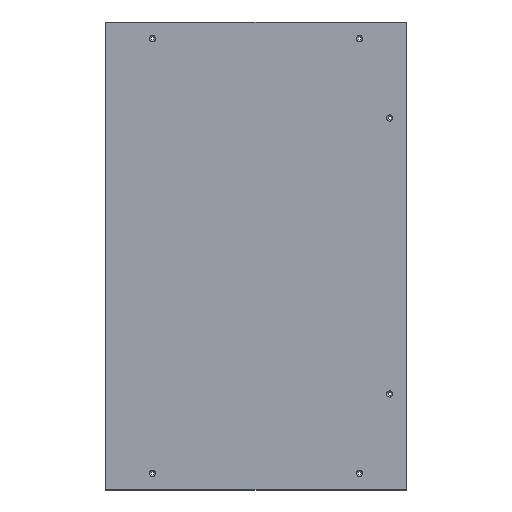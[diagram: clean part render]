
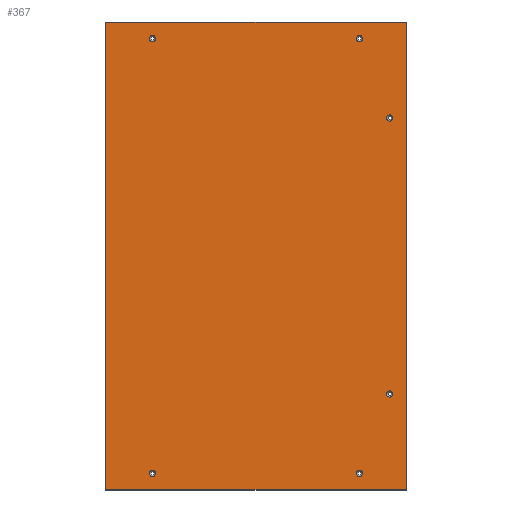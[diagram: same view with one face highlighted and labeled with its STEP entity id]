
A CAD part, top view. The second image highlights one B-rep face of the part: STEP entity #367.
In plain terms, the highlighted planar face has unit normal (0, 0, 1).
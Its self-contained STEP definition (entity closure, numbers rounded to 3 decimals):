
#5 = EDGE_LOOP ( 'NONE', ( #140 ) ) ;
#14 = EDGE_LOOP ( 'NONE', ( #322 ) ) ;
#16 = DIRECTION ( 'NONE',  ( -1., 0., 0. ) ) ;
#20 = DIRECTION ( 'NONE',  ( 0., 0., -1. ) ) ;
#21 = EDGE_LOOP ( 'NONE', ( #415 ) ) ;
#25 = DIRECTION ( 'NONE',  ( 0., -1., 0. ) ) ;
#30 = ORIENTED_EDGE ( 'NONE', *, *, #73, .T. ) ;
#32 = DIRECTION ( 'NONE',  ( -1., 0., 0. ) ) ;
#34 = VERTEX_POINT ( 'NONE', #467 ) ;
#46 = VERTEX_POINT ( 'NONE', #204 ) ;
#47 = AXIS2_PLACEMENT_3D ( 'NONE', #100, #139, #16 ) ;
#59 = ORIENTED_EDGE ( 'NONE', *, *, #96, .T. ) ;
#66 = CARTESIAN_POINT ( 'NONE',  ( 0., 0., 2. ) ) ;
#70 = ORIENTED_EDGE ( 'NONE', *, *, #463, .T. ) ;
#72 = EDGE_LOOP ( 'NONE', ( #537 ) ) ;
#73 = EDGE_CURVE ( 'NONE', #340, #327, #302, .T. ) ;
#74 = CARTESIAN_POINT ( 'NONE',  ( -150., 315., 2. ) ) ;
#79 = VERTEX_POINT ( 'NONE', #550 ) ;
#82 = VERTEX_POINT ( 'NONE', #425 ) ;
#91 = AXIS2_PLACEMENT_3D ( 'NONE', #515, #296, #212 ) ;
#96 = EDGE_CURVE ( 'NONE', #34, #34, #458, .T. ) ;
#100 = CARTESIAN_POINT ( 'NONE',  ( 193.5, -200., 2. ) ) ;
#109 = CIRCLE ( 'NONE', #47, 4.5 ) ;
#114 = DIRECTION ( 'NONE',  ( 0., 0., -1. ) ) ;
#127 = VECTOR ( 'NONE', #25, 1000. ) ;
#129 = CARTESIAN_POINT ( 'NONE',  ( -150., -315., 2. ) ) ;
#139 = DIRECTION ( 'NONE',  ( 0., 0., -1. ) ) ;
#140 = ORIENTED_EDGE ( 'NONE', *, *, #162, .T. ) ;
#152 = EDGE_CURVE ( 'NONE', #46, #418, #443, .T. ) ;
#157 = CARTESIAN_POINT ( 'NONE',  ( -217.5, -339., 2. ) ) ;
#158 = EDGE_LOOP ( 'NONE', ( #403, #381, #545, #30 ) ) ;
#162 = EDGE_CURVE ( 'NONE', #546, #546, #109, .T. ) ;
#163 = CARTESIAN_POINT ( 'NONE',  ( 145.5, -315., 2. ) ) ;
#166 = DIRECTION ( 'NONE',  ( 1., 0., 0. ) ) ;
#188 = DIRECTION ( 'NONE',  ( 0., 0., -1. ) ) ;
#190 = AXIS2_PLACEMENT_3D ( 'NONE', #66, #114, #505 ) ;
#204 = CARTESIAN_POINT ( 'NONE',  ( 217.5, 339., 2. ) ) ;
#210 = EDGE_CURVE ( 'NONE', #422, #422, #291, .T. ) ;
#212 = DIRECTION ( 'NONE',  ( -1., 0., 0. ) ) ;
#213 = VECTOR ( 'NONE', #488, 1000. ) ;
#214 = CARTESIAN_POINT ( 'NONE',  ( 217.5, -339., 2. ) ) ;
#220 = AXIS2_PLACEMENT_3D ( 'NONE', #530, #188, #405 ) ;
#223 = DIRECTION ( 'NONE',  ( -1., 0., 0. ) ) ;
#230 = CIRCLE ( 'NONE', #491, 4.5 ) ;
#231 = EDGE_CURVE ( 'NONE', #336, #336, #547, .T. ) ;
#237 = FACE_BOUND ( 'NONE', #279, .T. ) ;
#245 = DIRECTION ( 'NONE',  ( 0., 0., -1. ) ) ;
#253 = CARTESIAN_POINT ( 'NONE',  ( 145.5, 315., 2. ) ) ;
#259 = CIRCLE ( 'NONE', #292, 4.5 ) ;
#279 = EDGE_LOOP ( 'NONE', ( #70 ) ) ;
#291 = CIRCLE ( 'NONE', #220, 4.5 ) ;
#292 = AXIS2_PLACEMENT_3D ( 'NONE', #74, #20, #32 ) ;
#296 = DIRECTION ( 'NONE',  ( 0., 0., -1. ) ) ;
#302 = LINE ( 'NONE', #553, #539 ) ;
#317 = DIRECTION ( 'NONE',  ( 0., 0., -1. ) ) ;
#322 = ORIENTED_EDGE ( 'NONE', *, *, #231, .T. ) ;
#324 = FACE_BOUND ( 'NONE', #21, .T. ) ;
#327 = VERTEX_POINT ( 'NONE', #330 ) ;
#330 = CARTESIAN_POINT ( 'NONE',  ( 217.5, -339., 2. ) ) ;
#336 = VERTEX_POINT ( 'NONE', #163 ) ;
#340 = VERTEX_POINT ( 'NONE', #157 ) ;
#342 = CARTESIAN_POINT ( 'NONE',  ( 189., -200., 2. ) ) ;
#361 = AXIS2_PLACEMENT_3D ( 'NONE', #532, #317, #223 ) ;
#367 = ADVANCED_FACE ( 'NONE', ( #324, #376, #542, #544, #449, #237, #411 ), #499, .F. ) ;
#375 = EDGE_CURVE ( 'NONE', #418, #340, #455, .T. ) ;
#376 = FACE_BOUND ( 'NONE', #72, .T. ) ;
#380 = DIRECTION ( 'NONE',  ( -1., 0., 0. ) ) ;
#381 = ORIENTED_EDGE ( 'NONE', *, *, #152, .T. ) ;
#401 = CARTESIAN_POINT ( 'NONE',  ( -217.5, 339., 2. ) ) ;
#403 = ORIENTED_EDGE ( 'NONE', *, *, #472, .T. ) ;
#405 = DIRECTION ( 'NONE',  ( -1., 0., 0. ) ) ;
#407 = CARTESIAN_POINT ( 'NONE',  ( -217.5, -339., 2. ) ) ;
#411 = FACE_OUTER_BOUND ( 'NONE', #158, .T. ) ;
#412 = EDGE_LOOP ( 'NONE', ( #59 ) ) ;
#413 = EDGE_CURVE ( 'NONE', #79, #79, #259, .T. ) ;
#415 = ORIENTED_EDGE ( 'NONE', *, *, #413, .T. ) ;
#418 = VERTEX_POINT ( 'NONE', #453 ) ;
#422 = VERTEX_POINT ( 'NONE', #253 ) ;
#425 = CARTESIAN_POINT ( 'NONE',  ( -154.5, -315., 2. ) ) ;
#427 = LINE ( 'NONE', #214, #432 ) ;
#432 = VECTOR ( 'NONE', #513, 1000. ) ;
#443 = LINE ( 'NONE', #401, #213 ) ;
#449 = FACE_BOUND ( 'NONE', #14, .T. ) ;
#453 = CARTESIAN_POINT ( 'NONE',  ( -217.5, 339., 2. ) ) ;
#455 = LINE ( 'NONE', #407, #127 ) ;
#458 = CIRCLE ( 'NONE', #91, 4.5 ) ;
#463 = EDGE_CURVE ( 'NONE', #82, #82, #230, .T. ) ;
#467 = CARTESIAN_POINT ( 'NONE',  ( 189., 200., 2. ) ) ;
#472 = EDGE_CURVE ( 'NONE', #327, #46, #427, .T. ) ;
#488 = DIRECTION ( 'NONE',  ( -1., 0., 0. ) ) ;
#491 = AXIS2_PLACEMENT_3D ( 'NONE', #129, #245, #380 ) ;
#499 = PLANE ( 'NONE',  #190 ) ;
#505 = DIRECTION ( 'NONE',  ( -1., 0., 0. ) ) ;
#513 = DIRECTION ( 'NONE',  ( 0., 1., 0. ) ) ;
#515 = CARTESIAN_POINT ( 'NONE',  ( 193.5, 200., 2. ) ) ;
#530 = CARTESIAN_POINT ( 'NONE',  ( 150., 315., 2. ) ) ;
#532 = CARTESIAN_POINT ( 'NONE',  ( 150., -315., 2. ) ) ;
#537 = ORIENTED_EDGE ( 'NONE', *, *, #210, .T. ) ;
#539 = VECTOR ( 'NONE', #166, 1000. ) ;
#542 = FACE_BOUND ( 'NONE', #412, .T. ) ;
#544 = FACE_BOUND ( 'NONE', #5, .T. ) ;
#545 = ORIENTED_EDGE ( 'NONE', *, *, #375, .T. ) ;
#546 = VERTEX_POINT ( 'NONE', #342 ) ;
#547 = CIRCLE ( 'NONE', #361, 4.5 ) ;
#550 = CARTESIAN_POINT ( 'NONE',  ( -154.5, 315., 2. ) ) ;
#553 = CARTESIAN_POINT ( 'NONE',  ( -217.5, -339., 2. ) ) ;
